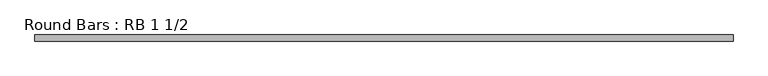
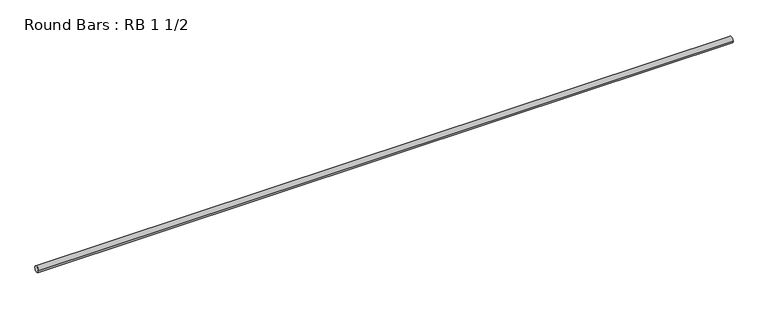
"""IFC4 building model written with IfcOpenShell, lengths in millimetres: member geometry, Round Bars : RB 1 1/2."""

from ifc_helpers import new_model, si_unit, point, frame, origin, origin_2d, place, context, project, spatial, circle_curve, trimmed, segment, composite_curve, outline, extrude, source, transform, mapped, element, save


def round_bars_rb_1_1_2_e800a8af(model_context):
    return source(origin(), model_context, "Body", "SweptSolid", [
        extrude(outline(composite_curve([segment(trimmed(circle_curve(origin_2d(), 19.05), [point((19.05, 0.0))], [point((-19.05, 0.0))], False, "CARTESIAN"), True, "CONTINUOUS"), segment(trimmed(circle_curve(origin_2d(), 19.05), [point((-19.05, 0.0))], [point((19.05, 0.0))], False, "CARTESIAN"), True, "CONTINUOUS")], self_intersect=False)), frame((-2210.2314298, 0.0, 0.0), z_axis=(1.0, 0.0, 0.0), x_axis=(0.0, 1.0, 0.0)), (0.0, 0.0, 1.0), 4307.2340446),
    ])


if __name__ == "__main__":
    model = new_model("IFC4")
    model_context = context("Model", 3, world=origin())
    ifc_project = project(units=[si_unit("LENGTHUNIT", "METRE", prefix="MILLI")], contexts=[model_context])
    site = spatial("IfcSite", under=ifc_project)
    building = spatial("IfcBuilding", under=site)
    placement = place(None, origin())
    round_bars_rb_1_1_2_shape = round_bars_rb_1_1_2_e800a8af(model_context)
    element("IfcMember", 1, ObjectType="Round Bars : RB 1 1/2", at=placement, inside=building, context=model_context, shape_type="MappedRepresentation", body=[
        mapped(round_bars_rb_1_1_2_shape, transform((0.0, 0.0, 0.0), x_axis=(1.0, 0.0, 0.0), y_axis=(0.0, 1.0, 0.0), z_axis=(0.0, 0.0, 1.0))),
    ])
    save(model, "model.ifc")
